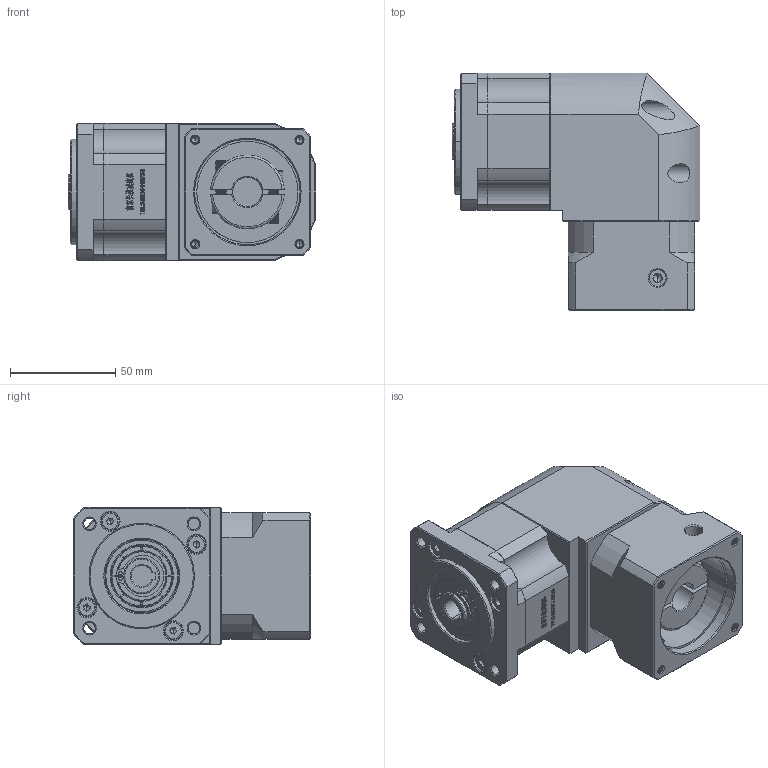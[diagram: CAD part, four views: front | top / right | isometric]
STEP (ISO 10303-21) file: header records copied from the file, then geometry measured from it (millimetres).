
FILE_DESCRIPTION (( 'STEP AP214' ), '1' );
FILE_NAME ('ZBR60-K10-L1-14-50-70-M4.STEP', '2022-04-19T08:50:38', ( '' ), ( 'Microsoft' ), 'SwSTEP 2.0', 'SolidWorks 2016', '' );
FILE_SCHEMA (( 'AUTOMOTIVE_DESIGN' ));
Length unit declared in the file: millimetre
Products named in the file (1): ZBR60-K10-L1-14-50-70-M4
Bounding box: 117.5 x 112.7 x 65 mm (x, y, z)
Volume: 518841.8 mm3; surface area: 76413.5 mm2
Topology: 5 solids, 5 shells, 2782 faces, 7515 edges, 4872 vertices
Faces by surface type: plane 1469, bspline 584, cylinder 385, cone 324, torus 20
Entity records: 147041 total; most frequent: CARTESIAN_POINT 50642, ORIENTED_EDGE 14974, DIRECTION 11441, EDGE_CURVE 7487, VECTOR 4987, LINE 4987, VERTEX_POINT 4872, AXIS2_PLACEMENT_3D 3227
